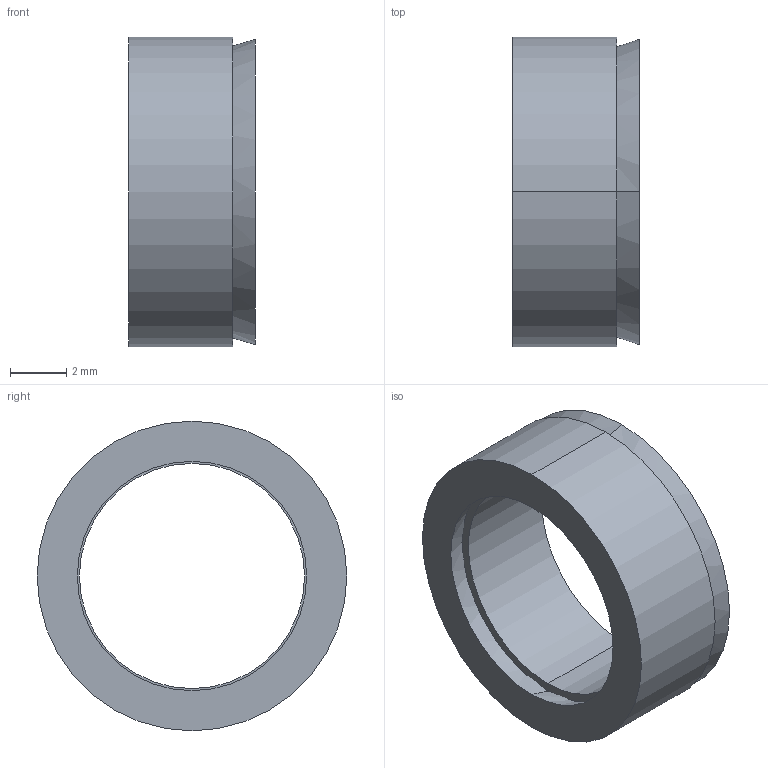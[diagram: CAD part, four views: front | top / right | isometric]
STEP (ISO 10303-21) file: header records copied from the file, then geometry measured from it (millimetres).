
FILE_DESCRIPTION (( 'STEP AP203' ), '1' );
FILE_NAME ('R-8-11.STEP', '2017-11-06T01:22:18', ( 'MYCOM' ), ( '' ), 'SwSTEP 2.0', 'SolidWorks 2015', '' );
FILE_SCHEMA (( 'CONFIG_CONTROL_DESIGN' ));
Length unit declared in the file: millimetre
Products named in the file (1): R-8-11
Bounding box: 4.5 x 11 x 11 mm (x, y, z)
Surface area: 555.3 mm2 (no closed solid volume)
Topology: 0 solids, 2 shells, 12 faces, 24 edges, 16 vertices
Faces by surface type: cone 4, cylinder 4, plane 4
Entity records: 406 total; most frequent: DIRECTION 66, CARTESIAN_POINT 53, ORIENTED_EDGE 48, AXIS2_PLACEMENT_3D 29, EDGE_CURVE 24, VERTEX_POINT 16, EDGE_LOOP 16, CIRCLE 16
